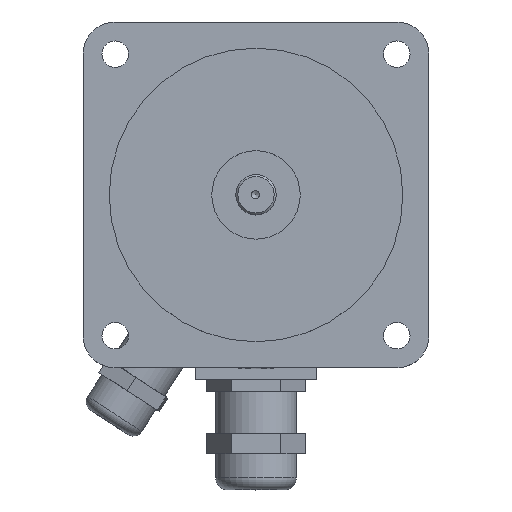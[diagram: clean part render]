
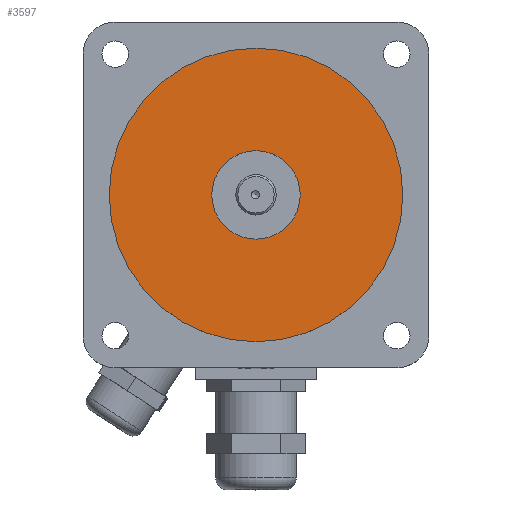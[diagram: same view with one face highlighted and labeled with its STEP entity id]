
A CAD part, top view. The second image highlights one B-rep face of the part: STEP entity #3597.
In plain terms, the highlighted planar face has unit normal (0, 0, 1).
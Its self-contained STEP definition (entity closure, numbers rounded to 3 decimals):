
#3570=CARTESIAN_POINT('',(0.0,0.0,54.5));
#3571=DIRECTION('',(0.0,0.0,-1.0));
#3572=DIRECTION('',(1.0,0.0,0.0));
#3573=AXIS2_PLACEMENT_3D('',#3570,#3571,#3572);
#3574=PLANE('',#3573);
#3575=CARTESIAN_POINT('',(-36.5,0.,54.5));
#3576=VERTEX_POINT('',#3575);
#3577=CARTESIAN_POINT('',(0.0,0.0,54.5));
#3578=DIRECTION('',(0.0,0.0,-1.0));
#3579=DIRECTION('',(1.0,0.0,0.0));
#3580=AXIS2_PLACEMENT_3D('',#3577,#3578,#3579);
#3581=CIRCLE('',#3580,36.5);
#3582=EDGE_CURVE('',#3576,#3576,#3581,.T.);
#3583=ORIENTED_EDGE('',*,*,#3582,.F.);
#3584=EDGE_LOOP('',(#3583));
#3585=FACE_OUTER_BOUND('',#3584,.T.);
#3586=CARTESIAN_POINT('',(-11.0,0.,54.5));
#3587=VERTEX_POINT('',#3586);
#3588=CARTESIAN_POINT('',(0.0,0.0,54.5));
#3589=DIRECTION('',(0.0,0.0,-1.0));
#3590=DIRECTION('',(1.0,0.0,0.0));
#3591=AXIS2_PLACEMENT_3D('',#3588,#3589,#3590);
#3592=CIRCLE('',#3591,11.0);
#3593=EDGE_CURVE('',#3587,#3587,#3592,.T.);
#3594=ORIENTED_EDGE('',*,*,#3593,.T.);
#3595=EDGE_LOOP('',(#3594));
#3596=FACE_BOUND('',#3595,.T.);
#3597=ADVANCED_FACE('',(#3585,#3596),#3574,.F.);
